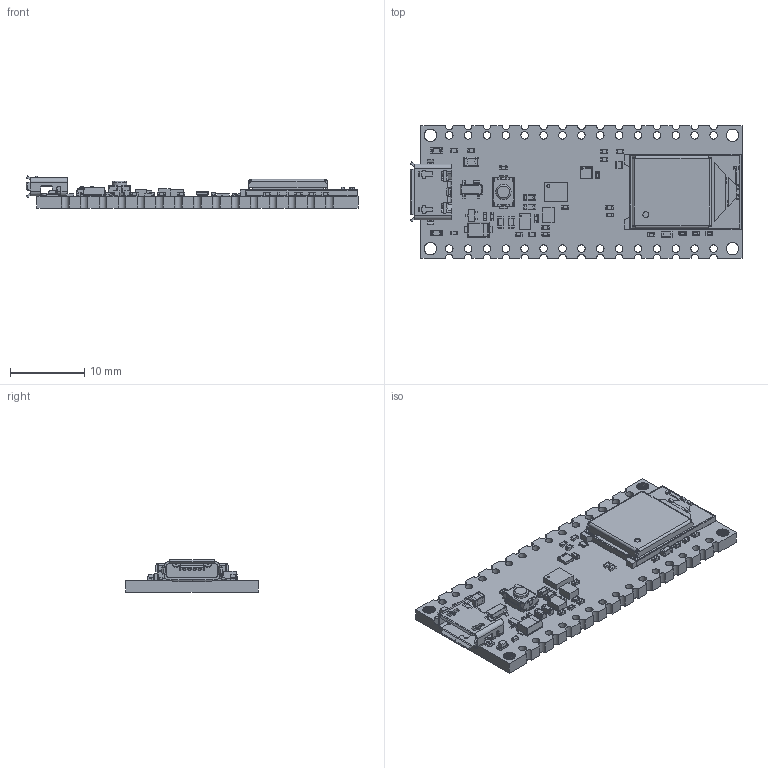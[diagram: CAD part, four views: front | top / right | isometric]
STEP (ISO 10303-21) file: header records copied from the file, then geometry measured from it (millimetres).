
FILE_DESCRIPTION(('Open CASCADE Model'),'2;1');
FILE_NAME('Open CASCADE Shape Model','2024-02-28T17:52:42',('Author'),( 'Open CASCADE'),'Open CASCADE STEP processor 7.5','Open CASCADE 7.5' ,'Unknown');
FILE_SCHEMA(('AUTOMOTIVE_DESIGN { 1 0 10303 214 1 1 1 1 }'));
Length unit declared in the file: millimetre
Products named in the file (83): PCB; Board; Open CASCADE STEP translator 7.5 2.1.1; Q1; SOT-523; DL2; HSMx-190; C24; CAP-0402; C23; CAP-0603; U6; 11918235968; Open CASCADE STEP translator 6.8 19.1; Body; Open CASCADE STEP translator 6.8 19.2.1; Pin_Shape; Open CASCADE STEP translator 6.8 19.3.1; L2; 8562309440; Extruded; C22; C20; C19; C17; C3; C10; C6; L1; FER-0603; U1; NINA-B3x6; 8562303680; 8562303040; C4; R8; RES-0402; R6; R3; DL1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
Assembly tree (127 placements, depth 6):
  PCB
    Board
      Open CASCADE STEP translator 7.5 2.1.1
    Q1
      SOT-523
    DL2
      HSMx-190
    C24
      CAP-0402
    C23
      CAP-0603
    U6
      11918235968
        Open CASCADE STEP translator 6.8 19.1
        Body
          Open CASCADE STEP translator 6.8 19.2.1
        Pin_Shape  x8
          Open CASCADE STEP translator 6.8 19.3.1
    L2
      8562309440
        Extruded
    C22
      CAP-0402
    C20
      CAP-0402
    C19
      CAP-0402
    C17
      CAP-0603
    C3
      CAP-0603
    C10
      CAP-0402
    C6
      CAP-0402
    L1
      FER-0603
    U1
      NINA-B3x6
      8562303680
        Extruded
      8562303040
        Extruded
    C4
      CAP-0603
    R8
      RES-0402
    R6
      RES-0402
    R3
      RES-0402
    DL1
      HSMx-190
    D2
      SOD123FL
        8279795424
          Body
            Open CASCADE STEP translator 7.5 15.1.1
          lead  x2
    C9
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Bounding box: 44.65 x 17.78 x 4.36 mm (x, y, z)
Volume: 1502.1 mm3; surface area: 3111.2 mm2
Topology: 88 solids, 91 shells, 3712 faces, 9607 edges, 5939 vertices
Faces by surface type: plane 2349, cylinder 973, sphere 204, bspline 161, torus 21, cone 4
Full cylindrical faces by diameter (mm): 0.07 x2, 0.2 x1, 0.388 x1, 0.4 x2, 0.6 x1, 0.8 x2, 1.016 x30, 2 x1, 2.05 x1
Entity records: 87098 total; most frequent: CARTESIAN_POINT 16101, ORIENTED_EDGE 12674, DIRECTION 12248, EDGE_CURVE 6338, LINE 4922, VECTOR 4922, VERTEX_POINT 4147, AXIS2_PLACEMENT_3D 3663
